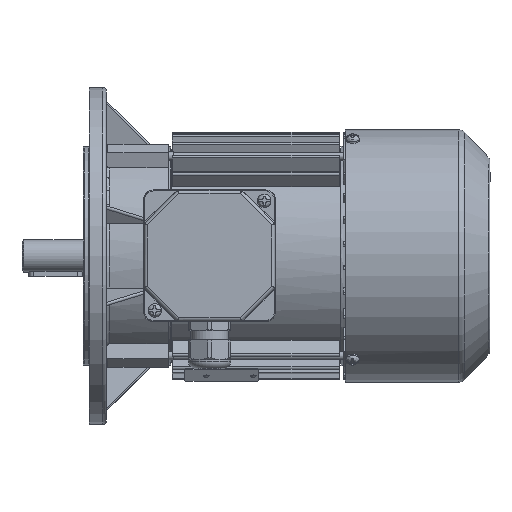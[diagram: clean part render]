
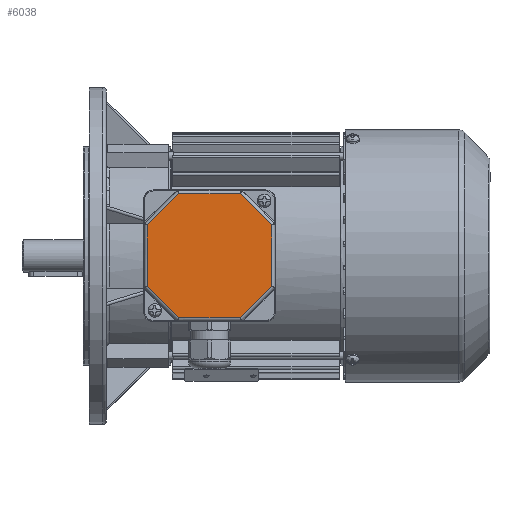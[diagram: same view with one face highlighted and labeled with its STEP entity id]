
A CAD part, top view. The second image highlights one B-rep face of the part: STEP entity #6038.
In plain terms, the highlighted planar face has unit normal (0, 0, 1).
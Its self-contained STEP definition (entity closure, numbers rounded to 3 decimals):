
#6038 = ADVANCED_FACE( '', ( #12787 ), #12788, .T. );
#12787 = FACE_OUTER_BOUND( '', #32599, .T. );
#12788 = PLANE( '', #32600 );
#32599 = EDGE_LOOP( '', ( #54594, #54595, #54596, #54597, #54598, #54599, #54600, #54601 ) );
#32600 = AXIS2_PLACEMENT_3D( '', #54602, #54603, #54604 );
#54594 = ORIENTED_EDGE( '', *, *, #68459, .T. );
#54595 = ORIENTED_EDGE( '', *, *, #64922, .T. );
#54596 = ORIENTED_EDGE( '', *, *, #61733, .T. );
#54597 = ORIENTED_EDGE( '', *, *, #68460, .T. );
#54598 = ORIENTED_EDGE( '', *, *, #66836, .T. );
#54599 = ORIENTED_EDGE( '', *, *, #64769, .T. );
#54600 = ORIENTED_EDGE( '', *, *, #68461, .T. );
#54601 = ORIENTED_EDGE( '', *, *, #63660, .T. );
#54602 = CARTESIAN_POINT( '', ( -39., 39., 12. ) );
#54603 = DIRECTION( '', ( 0., 0., 1. ) );
#54604 = DIRECTION( '', ( 1., 0., 0. ) );
#61733 = EDGE_CURVE( '', #70406, #70407, #70408, .F. );
#63660 = EDGE_CURVE( '', #73821, #73819, #73822, .T. );
#64769 = EDGE_CURVE( '', #75640, #75641, #75642, .T. );
#64922 = EDGE_CURVE( '', #75871, #70406, #75872, .T. );
#66836 = EDGE_CURVE( '', #78641, #75640, #78642, .F. );
#68459 = EDGE_CURVE( '', #73819, #75871, #80761, .F. );
#68460 = EDGE_CURVE( '', #70407, #78641, #80762, .T. );
#68461 = EDGE_CURVE( '', #75641, #73821, #80763, .F. );
#70406 = VERTEX_POINT( '', #83651 );
#70407 = VERTEX_POINT( '', #83652 );
#70408 = LINE( '', #83653, #83654 );
#73819 = VERTEX_POINT( '', #91204 );
#73821 = VERTEX_POINT( '', #91206 );
#73822 = LINE( '', #91207, #91208 );
#75640 = VERTEX_POINT( '', #99671 );
#75641 = VERTEX_POINT( '', #99672 );
#75642 = LINE( '', #99673, #99674 );
#75871 = VERTEX_POINT( '', #100191 );
#75872 = LINE( '', #100192, #100193 );
#78641 = VERTEX_POINT( '', #107015 );
#78642 = LINE( '', #107016, #107017 );
#80761 = LINE( '', #112515, #112516 );
#80762 = LINE( '', #112517, #112518 );
#80763 = LINE( '', #112519, #112520 );
#83651 = CARTESIAN_POINT( '', ( 18.255, 36.825, 12. ) );
#83652 = CARTESIAN_POINT( '', ( -18.255, 36.825, 12. ) );
#83653 = CARTESIAN_POINT( '', ( -19.069, 36.825, 12. ) );
#83654 = VECTOR( '', #116285, 1000. );
#91204 = CARTESIAN_POINT( '', ( 36.825, -18.255, 12. ) );
#91206 = CARTESIAN_POINT( '', ( 18.255, -36.825, 12. ) );
#91207 = CARTESIAN_POINT( '', ( 37.401, -17.679, 12. ) );
#91208 = VECTOR( '', #119021, 1000. );
#99671 = CARTESIAN_POINT( '', ( -36.825, -18.255, 12. ) );
#99672 = CARTESIAN_POINT( '', ( -18.255, -36.825, 12. ) );
#99673 = CARTESIAN_POINT( '', ( -17.679, -37.401, 12. ) );
#99674 = VECTOR( '', #120278, 1000. );
#100191 = CARTESIAN_POINT( '', ( 36.825, 18.255, 12. ) );
#100192 = CARTESIAN_POINT( '', ( 17.679, 37.401, 12. ) );
#100193 = VECTOR( '', #120422, 1000. );
#107015 = CARTESIAN_POINT( '', ( -36.825, 18.255, 12. ) );
#107016 = CARTESIAN_POINT( '', ( -36.825, -19.069, 12. ) );
#107017 = VECTOR( '', #122470, 1000. );
#112515 = CARTESIAN_POINT( '', ( 36.825, 19.069, 12. ) );
#112516 = VECTOR( '', #124328, 1000. );
#112517 = CARTESIAN_POINT( '', ( -37.401, 17.679, 12. ) );
#112518 = VECTOR( '', #124329, 1000. );
#112519 = CARTESIAN_POINT( '', ( 19.069, -36.825, 12. ) );
#112520 = VECTOR( '', #124330, 1000. );
#116285 = DIRECTION( '', ( 1., 0., 0. ) );
#119021 = DIRECTION( '', ( 0.707, 0.707, 0. ) );
#120278 = DIRECTION( '', ( 0.707, -0.707, 0. ) );
#120422 = DIRECTION( '', ( -0.707, 0.707, 0. ) );
#122470 = DIRECTION( '', ( 0., 1., 0. ) );
#124328 = DIRECTION( '', ( 0., -1., 0. ) );
#124329 = DIRECTION( '', ( -0.707, -0.707, 0. ) );
#124330 = DIRECTION( '', ( -1., 0., 0. ) );
